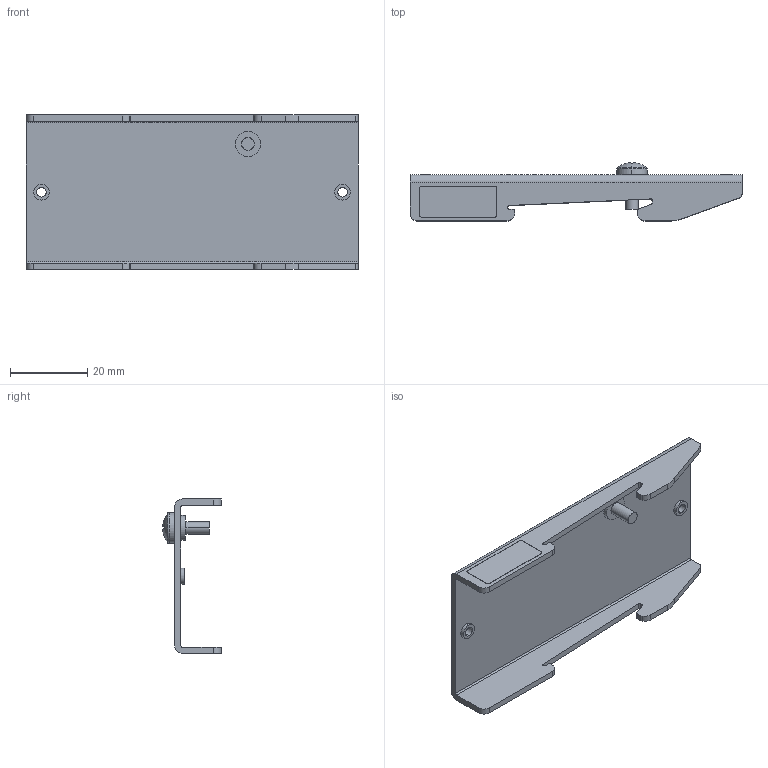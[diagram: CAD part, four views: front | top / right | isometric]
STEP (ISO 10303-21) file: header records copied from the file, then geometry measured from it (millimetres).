
FILE_DESCRIPTION (( 'STEP AP203' ), '1' );
FILE_NAME ('MADP07.STEP', '2016-05-11T05:17:46', ( 'om' ), ( 'Hewlett-Packard Company' ), 'SwSTEP 2.0', 'SolidWorks 2014', '' );
FILE_SCHEMA (( 'CONFIG_CONTROL_DESIGN' ));
Length unit declared in the file: millimetre
Products named in the file (1): MADP07
Bounding box: 86 x 15.05 x 40.1 mm (x, y, z)
Volume: 7747.5 mm3; surface area: 10170.6 mm2
Topology: 1 solids, 1 shells, 105 faces, 284 edges, 188 vertices
Faces by surface type: plane 53, cylinder 48, torus 2, sphere 2
Entity records: 3451 total; most frequent: CARTESIAN_POINT 614, DIRECTION 604, ORIENTED_EDGE 568, EDGE_CURVE 284, AXIS2_PLACEMENT_3D 218, VERTEX_POINT 188, VECTOR 168, LINE 168
